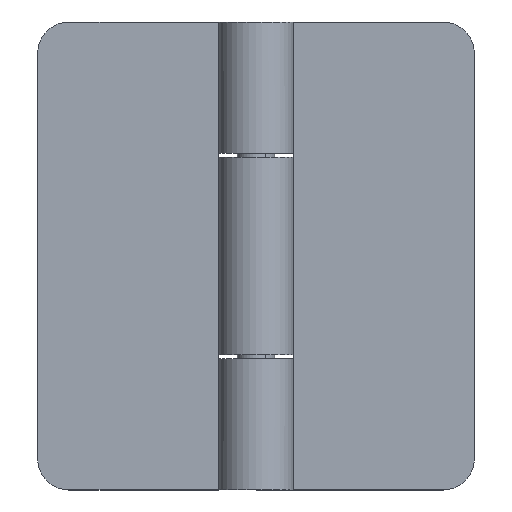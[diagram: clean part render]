
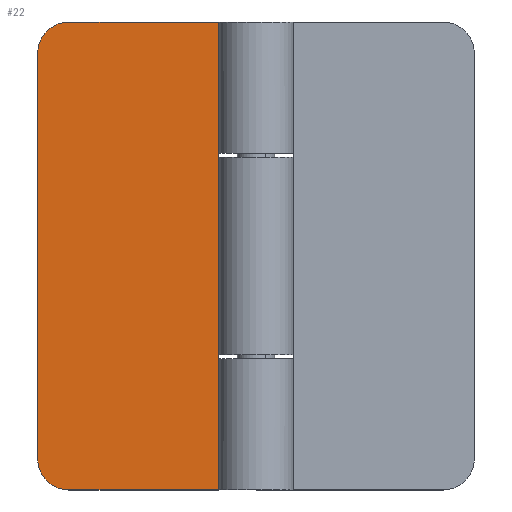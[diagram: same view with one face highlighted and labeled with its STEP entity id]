
A CAD part, top view. The second image highlights one B-rep face of the part: STEP entity #22.
In plain terms, the highlighted planar face has unit normal (0, 0, 1).
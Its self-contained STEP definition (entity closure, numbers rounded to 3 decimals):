
#22=ADVANCED_FACE('',(#49),#541,.T.);
#49=FACE_OUTER_BOUND('',#76,.T.);
#76=EDGE_LOOP('',(#116,#117,#118,#119,#120,#121,#122,#123,#124,#125,#126));
#116=ORIENTED_EDGE('',*,*,#250,.F.);
#117=ORIENTED_EDGE('',*,*,#282,.T.);
#118=ORIENTED_EDGE('',*,*,#252,.T.);
#119=ORIENTED_EDGE('',*,*,#260,.T.);
#120=ORIENTED_EDGE('',*,*,#278,.T.);
#121=ORIENTED_EDGE('',*,*,#253,.T.);
#122=ORIENTED_EDGE('',*,*,#257,.T.);
#123=ORIENTED_EDGE('',*,*,#277,.T.);
#124=ORIENTED_EDGE('',*,*,#258,.T.);
#125=ORIENTED_EDGE('',*,*,#254,.F.);
#126=ORIENTED_EDGE('',*,*,#284,.T.);
#250=EDGE_CURVE('',#488,#487,#415,.T.);
#252=EDGE_CURVE('',#489,#474,#417,.T.);
#253=EDGE_CURVE('',#473,#470,#418,.T.);
#254=EDGE_CURVE('',#490,#471,#419,.T.);
#257=EDGE_CURVE('',#470,#468,#421,.T.);
#258=EDGE_CURVE('',#469,#471,#422,.T.);
#260=EDGE_CURVE('',#474,#472,#424,.T.);
#277=EDGE_CURVE('',#468,#469,#433,.T.);
#278=EDGE_CURVE('',#472,#473,#434,.T.);
#282=EDGE_CURVE('',#488,#489,#346,.T.);
#284=EDGE_CURVE('',#490,#487,#348,.T.);
#346=TRIMMED_CURVE($,#378,(#918),(#919),.T.,.CARTESIAN.);
#348=TRIMMED_CURVE($,#380,(#924),(#925),.T.,.CARTESIAN.);
#378=CIRCLE('',#660,5.);
#380=CIRCLE('',#662,5.);
#415=B_SPLINE_CURVE_WITH_KNOTS('',1,(#844,#845),.UNSPECIFIED.,.F.,.F.,(2,
2),(5.,70.),.UNSPECIFIED.);
#417=B_SPLINE_CURVE_WITH_KNOTS('',1,(#848,#849),.UNSPECIFIED.,.F.,.F.,(2,
2),(-117.659,-93.659),.UNSPECIFIED.);
#418=B_SPLINE_CURVE_WITH_KNOTS('',1,(#850,#851),.UNSPECIFIED.,.F.,.F.,(2,
2),(21.65,53.35),.UNSPECIFIED.);
#419=B_SPLINE_CURVE_WITH_KNOTS('',1,(#852,#853),.UNSPECIFIED.,.F.,.F.,(2,
2),(-117.659,-93.659),.UNSPECIFIED.);
#421=B_SPLINE_CURVE_WITH_KNOTS('',1,(#858,#859),.UNSPECIFIED.,.F.,.F.,(2,
2),(-6.65,-0.65),.UNSPECIFIED.);
#422=B_SPLINE_CURVE_WITH_KNOTS('',1,(#860,#861),.UNSPECIFIED.,.F.,.F.,(2,
2),(-50.,0.),.UNSPECIFIED.);
#424=B_SPLINE_CURVE_WITH_KNOTS('',1,(#864,#865),.UNSPECIFIED.,.F.,.F.,(2,
2),(-128.,-106.35),.UNSPECIFIED.);
#433=B_SPLINE_CURVE_WITH_KNOTS('',1,(#906,#907),.UNSPECIFIED.,.F.,.F.,(2,
2),(-0.65,0.),.UNSPECIFIED.);
#434=B_SPLINE_CURVE_WITH_KNOTS('',1,(#908,#909),.UNSPECIFIED.,.F.,.F.,(2,
2),(-106.35,-100.35),.UNSPECIFIED.);
#468=VERTEX_POINT('',#811);
#469=VERTEX_POINT('',#812);
#470=VERTEX_POINT('',#813);
#471=VERTEX_POINT('',#814);
#472=VERTEX_POINT('',#815);
#473=VERTEX_POINT('',#816);
#474=VERTEX_POINT('',#817);
#487=VERTEX_POINT('',#830);
#488=VERTEX_POINT('',#831);
#489=VERTEX_POINT('',#832);
#490=VERTEX_POINT('',#833);
#541=PLANE('',#643);
#643=AXIS2_PLACEMENT_3D('',#796,#703,$);
#660=AXIS2_PLACEMENT_3D($,#917,#729,#730);
#662=AXIS2_PLACEMENT_3D($,#923,#733,#734);
#703=DIRECTION('',(0.,0.,1.));
#729=DIRECTION('',(0.,0.,1.));
#730=DIRECTION('',(-1.,0.,0.));
#733=DIRECTION('',(0.,0.,1.));
#734=DIRECTION('',(0.,1.,0.));
#796=CARTESIAN_POINT('',(-34.652,-37.5,0.594));
#811=CARTESIAN_POINT('',(-5.652,15.85,0.594));
#812=CARTESIAN_POINT('',(-5.652,16.5,0.594));
#813=CARTESIAN_POINT('',(0.348,15.85,0.594));
#814=CARTESIAN_POINT('',(-5.652,37.5,0.594));
#815=CARTESIAN_POINT('',(-5.652,-15.85,0.594));
#816=CARTESIAN_POINT('',(0.348,-15.85,0.594));
#817=CARTESIAN_POINT('',(-5.652,-37.5,0.594));
#830=CARTESIAN_POINT('',(-34.652,32.5,0.594));
#831=CARTESIAN_POINT('',(-34.652,-32.5,0.594));
#832=CARTESIAN_POINT('',(-29.652,-37.5,0.594));
#833=CARTESIAN_POINT('',(-29.652,37.5,0.594));
#844=CARTESIAN_POINT('',(-34.652,-32.5,0.594));
#845=CARTESIAN_POINT('',(-34.652,32.5,0.594));
#848=CARTESIAN_POINT('',(-29.652,-37.5,0.594));
#849=CARTESIAN_POINT('',(-5.652,-37.5,0.594));
#850=CARTESIAN_POINT('',(0.348,-15.85,0.594));
#851=CARTESIAN_POINT('',(0.348,15.85,0.594));
#852=CARTESIAN_POINT('',(-29.652,37.5,0.594));
#853=CARTESIAN_POINT('',(-5.652,37.5,0.594));
#858=CARTESIAN_POINT('',(0.348,15.85,0.594));
#859=CARTESIAN_POINT('',(-5.652,15.85,0.594));
#860=CARTESIAN_POINT('',(-5.652,16.5,0.594));
#861=CARTESIAN_POINT('',(-5.652,37.5,0.594));
#864=CARTESIAN_POINT('',(-5.652,-37.5,0.594));
#865=CARTESIAN_POINT('',(-5.652,-15.85,0.594));
#906=CARTESIAN_POINT('',(-5.652,15.85,0.594));
#907=CARTESIAN_POINT('',(-5.652,16.5,0.594));
#908=CARTESIAN_POINT('',(-5.652,-15.85,0.594));
#909=CARTESIAN_POINT('',(0.348,-15.85,0.594));
#917=CARTESIAN_POINT('',(-29.652,-32.5,0.594));
#918=CARTESIAN_POINT('',(-34.652,-32.5,0.594));
#919=CARTESIAN_POINT('',(-29.652,-37.5,0.594));
#923=CARTESIAN_POINT('',(-29.652,32.5,0.594));
#924=CARTESIAN_POINT('',(-29.652,37.5,0.594));
#925=CARTESIAN_POINT('',(-34.652,32.5,0.594));
